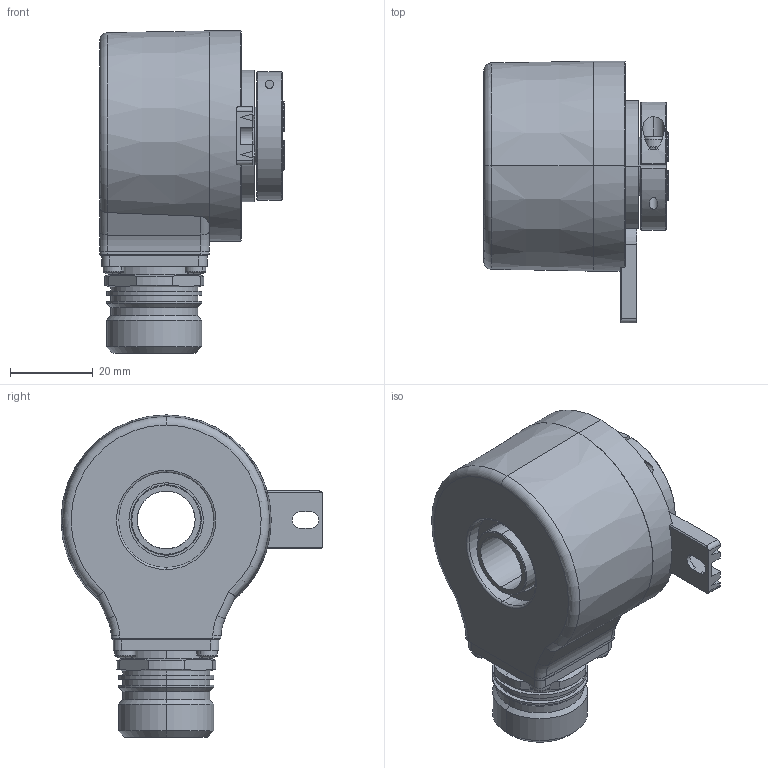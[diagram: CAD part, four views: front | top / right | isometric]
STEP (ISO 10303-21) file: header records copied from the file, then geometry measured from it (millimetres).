
FILE_DESCRIPTION (( 'STEP AP214' ), '1' );
FILE_NAME ('5020.2AX4.XXXXSLDASM.STEP', '2007-08-01T08:52:34', ( 'DanneckerS' ), ( ' ' ), 'SwSTEP 2.0', 'SolidWorks 2007', '' );
FILE_SCHEMA (( 'AUTOMOTIVE_DESIGN' ));
Length unit declared in the file: millimetre
Products named in the file (1): 5020.2AX4.XXXXSLDASM
Bounding box: 44.7 x 63.3 x 77.9 mm (x, y, z)
Surface area: 21469.1 mm2 (no closed solid volume)
Topology: 0 solids, 35 shells, 405 faces, 1153 edges, 765 vertices
Faces by surface type: cylinder 154, plane 142, torus 38, cone 35, sphere 32, bspline 4
Entity records: 17973 total; most frequent: CARTESIAN_POINT 2797, DIRECTION 2455, ORIENTED_EDGE 1996, EDGE_CURVE 1129, AXIS2_PLACEMENT_3D 999, VERTEX_POINT 765, CIRCLE 597, EDGE_LOOP 469
